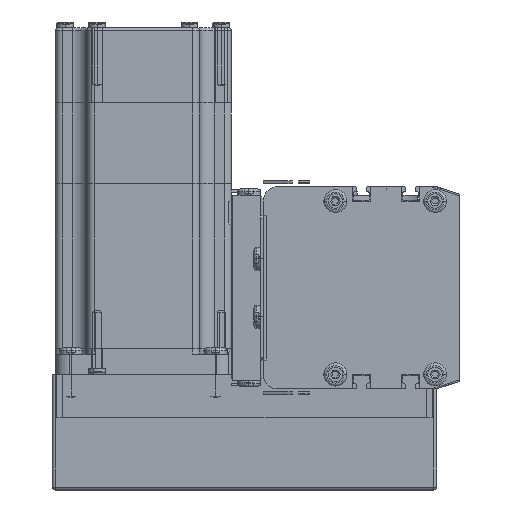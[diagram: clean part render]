
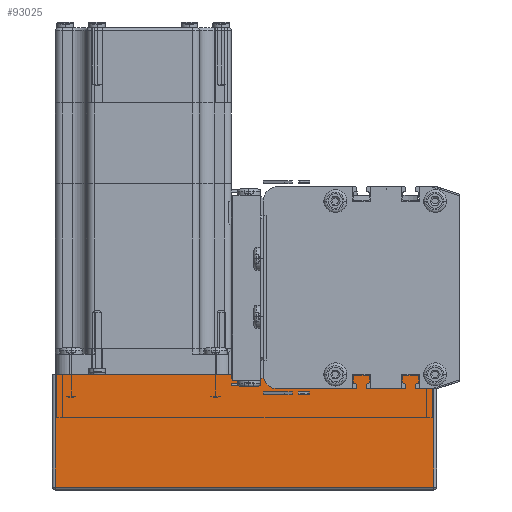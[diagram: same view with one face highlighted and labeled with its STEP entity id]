
A CAD part, left-side view. The second image highlights one B-rep face of the part: STEP entity #93025.
In plain terms, the highlighted planar face has unit normal (-1, 0, 0) as drawn and (0, 1, 0) by its records, which use the part's own axes.
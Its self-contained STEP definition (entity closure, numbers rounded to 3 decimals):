
#43475 = CARTESIAN_POINT ( 'NONE',  ( 1., 62., 0. ) ) ;
#43545 = CARTESIAN_POINT ( 'NONE',  ( 0., 62., 0. ) ) ;
#43546 = LINE ( 'NONE', #43545, #43593 ) ;
#43592 = DIRECTION ( 'NONE',  ( -1., 0., 0. ) ) ;
#43593 = VECTOR ( 'NONE', #43592, 1000. ) ;
#43611 = PLANE ( 'NONE',  #43667 ) ;
#43639 = DIRECTION ( 'NONE',  ( 0., 0., -1. ) ) ;
#43640 = DIRECTION ( 'NONE',  ( 0., -1., 0. ) ) ;
#43641 = CARTESIAN_POINT ( 'NONE',  ( 0., 62., 40. ) ) ;
#43646 = DIRECTION ( 'NONE',  ( 1., 0., 0. ) ) ;
#43647 = VECTOR ( 'NONE', #43646, 1000. ) ;
#43648 = CARTESIAN_POINT ( 'NONE',  ( 0., 62., 39. ) ) ;
#43649 = LINE ( 'NONE', #43648, #43647 ) ;
#43654 = FACE_OUTER_BOUND ( 'NONE', #93026, .T. ) ;
#43657 = CARTESIAN_POINT ( 'NONE',  ( 132., 62., 0. ) ) ;
#43660 = CARTESIAN_POINT ( 'NONE',  ( 1., 62., 39. ) ) ;
#43667 = AXIS2_PLACEMENT_3D ( 'NONE', #43641, #43640, #43639 ) ;
#43728 = DIRECTION ( 'NONE',  ( 0., 0., -1. ) ) ;
#43729 = VECTOR ( 'NONE', #43728, 1000. ) ;
#43732 = CARTESIAN_POINT ( 'NONE',  ( 132., 62., 40. ) ) ;
#43734 = LINE ( 'NONE', #43785, #43784 ) ;
#43735 = LINE ( 'NONE', #43732, #43729 ) ;
#43759 = CARTESIAN_POINT ( 'NONE',  ( 132., 62., 39. ) ) ;
#43783 = DIRECTION ( 'NONE',  ( 0., 0., 1. ) ) ;
#43784 = VECTOR ( 'NONE', #43783, 1000. ) ;
#43785 = CARTESIAN_POINT ( 'NONE',  ( 1., 62., 40. ) ) ;
#92943 = VERTEX_POINT ( 'NONE', #43475 ) ;
#92986 = EDGE_CURVE ( 'NONE', #93018, #92943, #43546, .T. ) ;
#93018 = VERTEX_POINT ( 'NONE', #43657 ) ;
#93021 = VERTEX_POINT ( 'NONE', #43660 ) ;
#93024 = EDGE_CURVE ( 'NONE', #93021, #93099, #43649, .T. ) ;
#93025 = ADVANCED_FACE ( 'NONE', ( #43654 ), #43611, .F. ) ;
#93026 = EDGE_LOOP ( 'NONE', ( #93082, #93081, #93085, #93089 ) ) ;
#93081 = ORIENTED_EDGE ( 'NONE', *, *, #93083, .T. ) ;
#93082 = ORIENTED_EDGE ( 'NONE', *, *, #93024, .T. ) ;
#93083 = EDGE_CURVE ( 'NONE', #93099, #93018, #43735, .T. ) ;
#93085 = ORIENTED_EDGE ( 'NONE', *, *, #92986, .T. ) ;
#93088 = EDGE_CURVE ( 'NONE', #92943, #93021, #43734, .T. ) ;
#93089 = ORIENTED_EDGE ( 'NONE', *, *, #93088, .T. ) ;
#93099 = VERTEX_POINT ( 'NONE', #43759 ) ;
